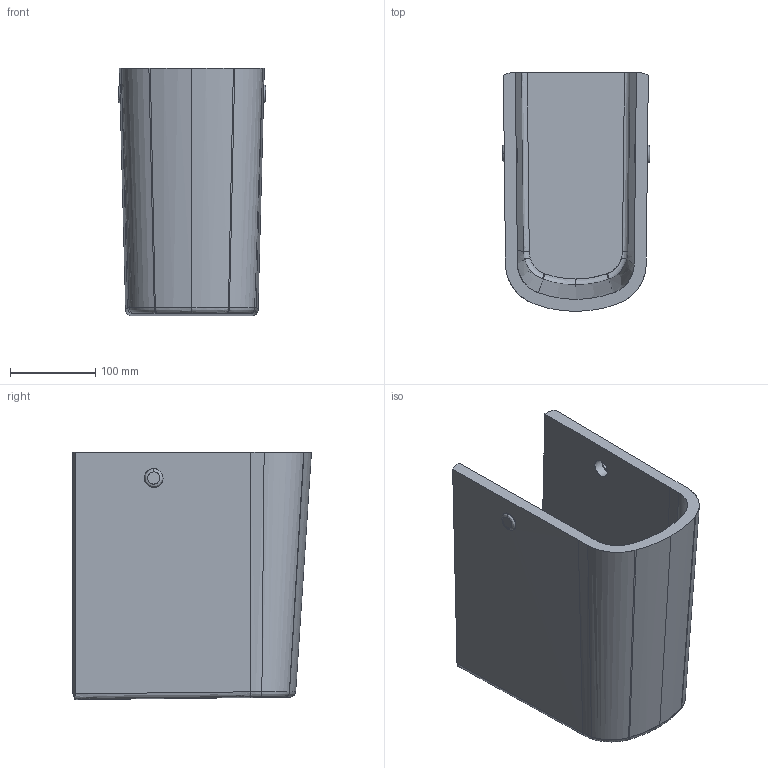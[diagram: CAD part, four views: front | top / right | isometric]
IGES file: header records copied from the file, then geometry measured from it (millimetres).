
Global section: file name: d:\users\matthias.isele\Desktop\085830\3D\085830.igs; native system: Rhinoceros ( Sep 13 2016 ); preprocessor: Trout Lake IGES 012 Sep 13 2016; date: 211013.062049; units: millimetre
Bounding box: 173.43 x 280 x 289.97 mm (x, y, z)
Surface area: 437839.4 mm2 (no closed solid volume)
Topology: 0 solids, 0 shells, 65 faces, 469 edges, 469 vertices
Faces by surface type: bspline 65
